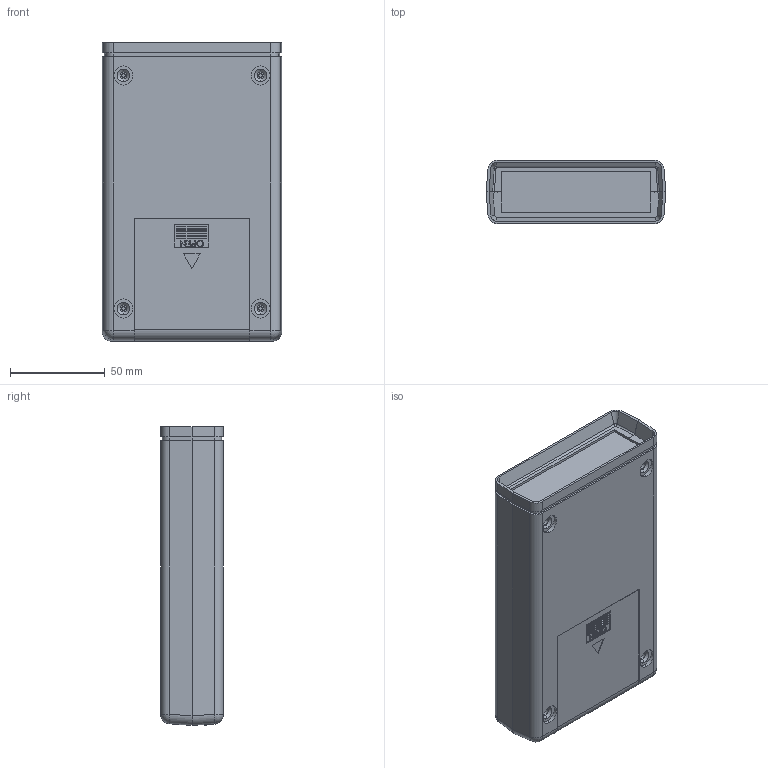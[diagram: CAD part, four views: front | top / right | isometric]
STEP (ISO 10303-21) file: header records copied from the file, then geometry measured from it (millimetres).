
FILE_DESCRIPTION (( 'STEP AP214' ), '1' );
FILE_NAME ('UOCM-118.STEP', '2020-05-22T20:54:24', ( 'Rudy' ), ( '' ), 'SwSTEP 2.0', 'SolidWorks 2014', '' );
FILE_SCHEMA (( 'AUTOMOTIVE_DESIGN' ));
Length unit declared in the file: inch
Products named in the file (5): UOCM-S; door-4AA; UOCM-top; UOCM-bottom 4 AA; UOCM-118
Assembly tree (4 placements, depth 2):
  UOCM-118
    UOCM-bottom 4 AA
    UOCM-top
    door-4AA
    UOCM-S
Bounding box: 94.79 x 33.27 x 157.86 mm (x, y, z)
Volume: 142179.5 mm3; surface area: 112960.9 mm2
Topology: 4 solids, 4 shells, 1154 faces, 3163 edges, 2041 vertices
Faces by surface type: plane 646, cylinder 307, torus 93, cone 80, bspline 24, sphere 4
Entity records: 37781 total; most frequent: CARTESIAN_POINT 8745, ORIENTED_EDGE 6318, DIRECTION 5739, EDGE_CURVE 3159, LINE 2153, VECTOR 2153, VERTEX_POINT 2041, AXIS2_PLACEMENT_3D 1793
